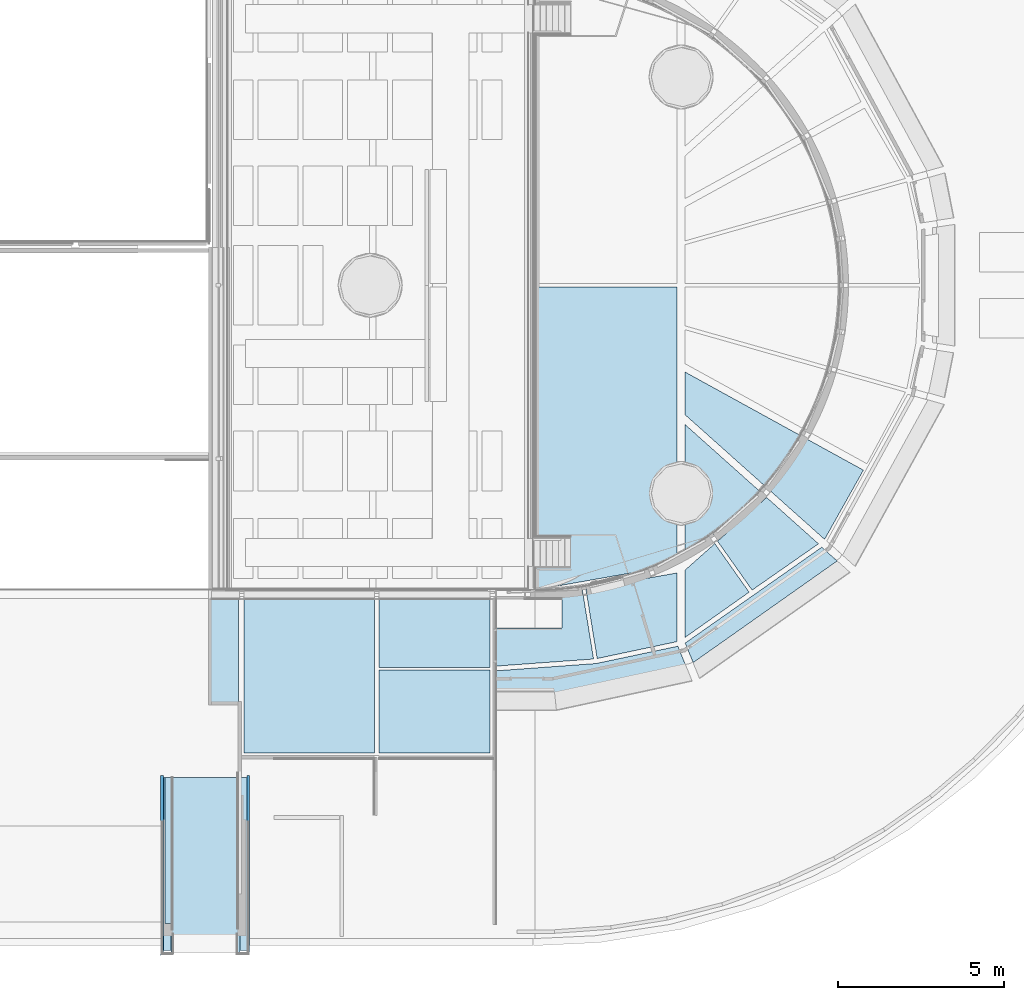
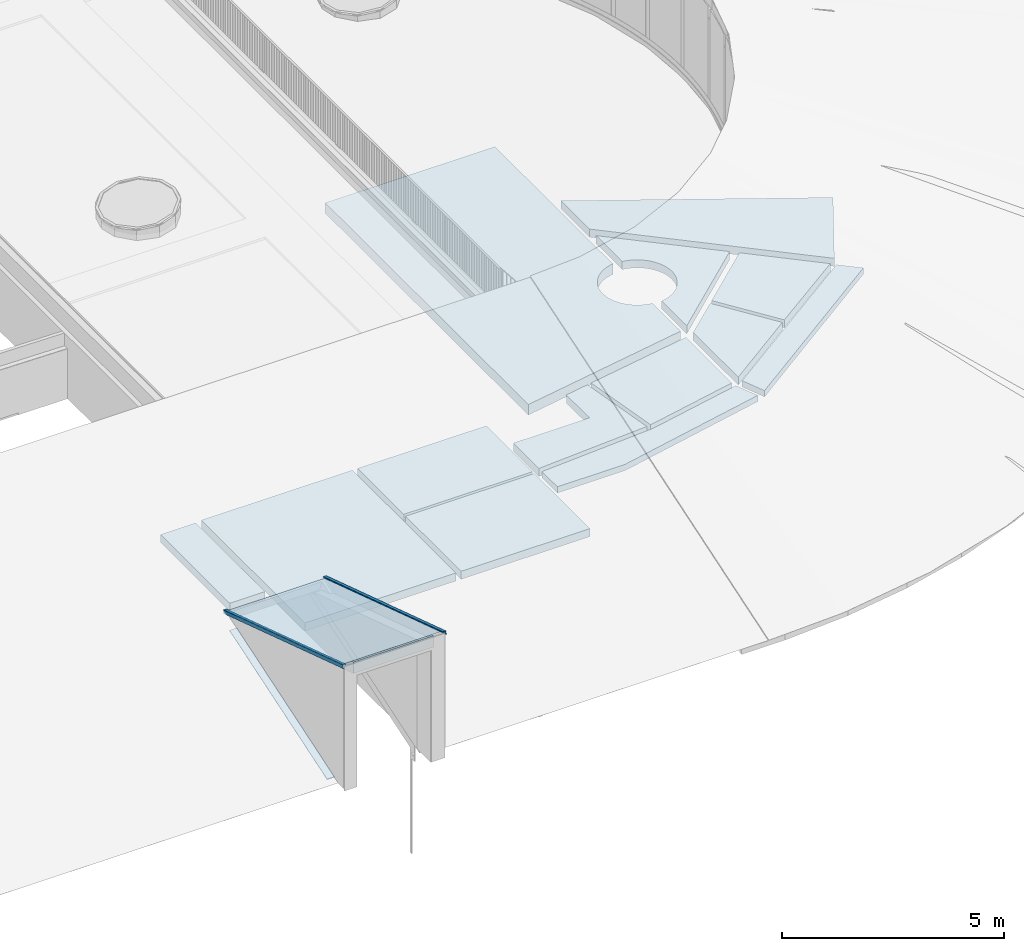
# One storey, part 13 of 66: 18 slabs, 5 elements without a shape of their own.
"""IFC2X3 building model written with IfcOpenShell, lengths in millimetres."""

from ifc_helpers import new_model, entity, si_unit, converted_unit, derived_unit, direction, frame, frame_2d, origin, origin_2d_with_axis, place, context, subcontext, project, spatial, polyline, circle_curve, parameter, trimmed, segment, composite_curve, rectangle, outline, extrude, material, material_list, layer, layer_set, layer_usage, type_object, element, aggregate, save


model = new_model("IFC2X3")

# Units and contexts
model_context = context("Model", 3, precision=0.01, world=origin(), true_north=direction((6.12303176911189e-17, 1.0)))
body_context = subcontext(model_context, "Body", "Model", "MODEL_VIEW")
ifc_project = project(units=[si_unit("LENGTHUNIT", "METRE", prefix="MILLI"), si_unit("AREAUNIT", "SQUARE_METRE"), si_unit("VOLUMEUNIT", "CUBIC_METRE"), converted_unit("PLANEANGLEUNIT", "DEGREE", entity("IfcRatioMeasure", 0.0174532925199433), si_unit("PLANEANGLEUNIT", "RADIAN"), dimensions=[0, 0, 0, 0, 0, 0, 0]), si_unit("MASSUNIT", "GRAM", prefix="KILO"), derived_unit("MASSDENSITYUNIT", [(si_unit("MASSUNIT", "GRAM", prefix="KILO"), 1), (si_unit("LENGTHUNIT", "METRE"), -3)]), derived_unit("MOMENTOFINERTIAUNIT", [(si_unit("LENGTHUNIT", "METRE"), 4)]), si_unit("TIMEUNIT", "SECOND"), si_unit("FREQUENCYUNIT", "HERTZ"), si_unit("THERMODYNAMICTEMPERATUREUNIT", "DEGREE_CELSIUS"), derived_unit("THERMALTRANSMITTANCEUNIT", [(si_unit("MASSUNIT", "GRAM", prefix="KILO"), 1), (si_unit("THERMODYNAMICTEMPERATUREUNIT", "KELVIN"), -1), (si_unit("TIMEUNIT", "SECOND"), -3)]), derived_unit("VOLUMETRICFLOWRATEUNIT", [(si_unit("LENGTHUNIT", "METRE"), 3), (si_unit("TIMEUNIT", "SECOND"), -1)]), si_unit("ELECTRICCURRENTUNIT", "AMPERE"), si_unit("ELECTRICVOLTAGEUNIT", "VOLT"), si_unit("POWERUNIT", "WATT"), si_unit("FORCEUNIT", "NEWTON", prefix="KILO"), si_unit("ILLUMINANCEUNIT", "LUX"), si_unit("LUMINOUSFLUXUNIT", "LUMEN"), si_unit("LUMINOUSINTENSITYUNIT", "CANDELA"), derived_unit("USERDEFINED", [(si_unit("MASSUNIT", "GRAM", prefix="KILO"), -1), (si_unit("LENGTHUNIT", "METRE"), -2), (si_unit("TIMEUNIT", "SECOND"), 3), (si_unit("LUMINOUSFLUXUNIT", "LUMEN"), 1)]), derived_unit("LINEARVELOCITYUNIT", [(si_unit("LENGTHUNIT", "METRE"), 1), (si_unit("TIMEUNIT", "SECOND"), -1)]), si_unit("PRESSUREUNIT", "PASCAL"), derived_unit("USERDEFINED", [(si_unit("LENGTHUNIT", "METRE"), -2), (si_unit("MASSUNIT", "GRAM", prefix="KILO"), 1), (si_unit("TIMEUNIT", "SECOND"), -2)]), derived_unit("LINEARFORCEUNIT", [(si_unit("MASSUNIT", "GRAM", prefix="KILO"), 1), (si_unit("LENGTHUNIT", "METRE"), 1), (si_unit("TIMEUNIT", "SECOND"), -2), (si_unit("LENGTHUNIT", "METRE"), -1)]), derived_unit("PLANARFORCEUNIT", [(si_unit("MASSUNIT", "GRAM", prefix="KILO"), 1), (si_unit("LENGTHUNIT", "METRE"), 1), (si_unit("TIMEUNIT", "SECOND"), -2), (si_unit("LENGTHUNIT", "METRE"), -2)])], contexts=[model_context])

# Site, building, storey
site_placement = place(None, origin())
site = spatial("IfcSite", under=ifc_project, at=site_placement, Name="Default", CompositionType="ELEMENT")
building_placement = place(site_placement, origin())
building = spatial("IfcBuilding", under=site, at=building_placement, Name="-", CompositionType="ELEMENT")
storey_placement = place(building_placement, frame((0.0, 0.0, 3070.0)))
storey = spatial("IfcBuildingStorey", under=building, at=storey_placement, Name="01 eerste verdieping", CompositionType="ELEMENT", Elevation=3070.00000000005)

# Covering, slab
covering_1_placement = place(storey_placement, frame((39423.5063982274, -452.772407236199, 1723.63208688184)))
covering_1 = element("IfcCovering", 1, at=covering_1_placement, inside=storey, Name="Basic Roof:NLRS_47_Felsdak zink", ObjectType="Basic Roof:NLRS_47_Felsdak zink", PredefinedType="NOTDEFINED")
slab_type_1 = type_object("IfcSlabType", Name="Basic Roof:NLRS_47_Felsdak zink", PredefinedType="ROOF")
slab_1_placement = place(covering_1_placement, origin())
slab_1 = element("IfcSlab", 2, at=slab_1_placement, type_object=slab_type_1, Name="Basic Roof:NLRS_47_Felsdak zink", ObjectType="Basic Roof:NLRS_47_Felsdak zink", PredefinedType="NOTDEFINED", context=body_context, shape_type="SweptSolid", body=[
    extrude(rectangle(XDim=2547.55903756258, YDim=5497.67613719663, at=frame_2d((4.32009983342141e-12, -6.82121026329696e-13), x_axis=(-1.0, 0.0))), frame((1273.77951878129, 2614.30035738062, 849.437677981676), z_axis=(0.0, 0.309016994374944, 0.951056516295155), x_axis=(1.0, 0.0, 0.0)), (0.0, -0.309016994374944, 0.951056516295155), 1.05146222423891),
])
aggregate(covering_1, [slab_1])

# Slabs
ifc_material_1 = material(Name="NLRS_i2_hout naaldhout vuren_gen")
ifc_layer_1 = layer(ifc_material_1, 221.0)
ifc_layer_set_1 = layer_set([ifc_layer_1], Name="Floor:NLRS_23_FL_Houten balk laag 221mm")
ifc_layer_usage_1 = layer_usage(ifc_layer_set_1, "AXIS3", "POSITIVE", 0.0)
slab_type_2 = type_object("IfcSlabType", Name="Floor:NLRS_23_FL_Houten balk laag 221mm", PredefinedType="FLOOR", material=ifc_layer_set_1)
slab_2_placement = place(storey_placement, origin())
element("IfcSlab", 3, at=slab_2_placement, inside=storey, type_object=slab_type_2, material=ifc_layer_usage_1, Name="Floor:NLRS_23_FL_Houten balk laag 221mm", ObjectType="Floor:NLRS_23_FL_Houten balk laag 221mm", PredefinedType="FLOOR", context=body_context, shape_type="SweptSolid", body=[
    extrude(outline(polyline([(1033.52836097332, -2395.6060394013), (2323.35033169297, -2395.6060394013), (-633.768233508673, 2981.4547027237), (-2723.11045915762, 1809.75737607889), (1033.52836097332, -2395.6060394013)])), frame((57572.7340260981, 14674.7118039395, 82.0), z_axis=(0.0, 0.0, -1.0), x_axis=(0.0, 1.0, 0.0)), (0.0, 0.0, 1.0), 221.0),
])
ifc_layer_usage_2 = layer_usage(ifc_layer_set_1, "AXIS3", "POSITIVE", 0.0)
slab_type_3 = type_object("IfcSlabType", Name="Floor:NLRS_23_FL_Houten balk laag 221mm", PredefinedType="FLOOR", material=ifc_layer_set_1)
slab_3_placement = place(storey_placement, origin())
element("IfcSlab", 4, at=slab_3_placement, inside=storey, type_object=slab_type_3, material=ifc_layer_usage_2, Name="Floor:NLRS_23_FL_Houten balk laag 221mm", ObjectType="Floor:NLRS_23_FL_Houten balk laag 221mm", PredefinedType="FLOOR", context=body_context, shape_type="SweptSolid", body=[
    extrude(outline(composite_curve([segment(polyline([(-2036.55619439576, 460.021450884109), (6.96434563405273, -1835.99081813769)]), True, "CONTINUOUS"), segment(polyline([(6.96434563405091, -1835.99081813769), (2056.156360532, 457.973958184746)]), True, "CONTINUOUS"), segment(polyline([(2056.156360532, 457.973958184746), (878.532039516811, 457.973958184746)]), True, "CONTINUOUS"), segment(trimmed(circle_curve(frame_2d((-13.1432360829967, 580.101771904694), x_axis=(-0.991059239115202, -0.13342257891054)), 900.000000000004), [parameter(0.0)], [parameter(164.533625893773)], True, "PARAMETER"), False, "CONTINUOUS"), segment(polyline([(-905.096551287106, 460.021450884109), (-2036.55619439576, 460.021450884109)]), True, "CONTINUOUS")], self_intersect=False)), frame((55635.1019448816, 13357.0363232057, 82.0), z_axis=(0.0, 0.0, 1.0), x_axis=(0.0, 1.0, 0.0)), (0.0, 0.0, -1.0), 221.0),
])
ifc_layer_usage_3 = layer_usage(ifc_layer_set_1, "AXIS3", "POSITIVE", 0.0)
slab_type_4 = type_object("IfcSlabType", Name="Floor:NLRS_23_FL_Houten balk laag 221mm", PredefinedType="FLOOR", material=ifc_layer_set_1)
slab_4_placement = place(storey_placement, origin())
element("IfcSlab", 5, at=slab_4_placement, inside=storey, type_object=slab_type_4, material=ifc_layer_usage_3, Name="Floor:NLRS_23_FL_Houten balk laag 221mm", ObjectType="Floor:NLRS_23_FL_Houten balk laag 221mm", PredefinedType="FLOOR", context=body_context, shape_type="SweptSolid", body=[
    extrude(outline(polyline([(-1557.26043607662, -709.47582815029), (472.612284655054, -709.47582815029), (1275.27387329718, 192.360399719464), (-190.625721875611, 1226.59125658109), (-1557.26043607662, -709.47582815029)])), frame((55879.767448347, 10549.0886197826, 82.0), z_axis=(0.0, 0.0, -1.0), x_axis=(0.0, 1.0, 0.0)), (0.0, 0.0, 1.0), 221.0),
])
ifc_layer_usage_4 = layer_usage(ifc_layer_set_1, "AXIS3", "POSITIVE", 0.0)
slab_type_5 = type_object("IfcSlabType", Name="Floor:NLRS_23_FL_Houten balk laag 221mm", PredefinedType="FLOOR", material=ifc_layer_set_1)
slab_5_placement = place(storey_placement, origin())
element("IfcSlab", 6, at=slab_5_placement, inside=storey, type_object=slab_type_5, material=ifc_layer_usage_4, Name="Floor:NLRS_23_FL_Houten balk laag 221mm", ObjectType="Floor:NLRS_23_FL_Houten balk laag 221mm", PredefinedType="FLOOR", context=body_context, shape_type="SweptSolid", body=[
    extrude(outline(polyline([(-1285.20975006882, -1288.79931952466), (787.280561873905, -1288.79931952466), (1296.60965066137, 1118.27309822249), (-798.680462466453, 1459.32554082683), (-1285.20975006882, -1288.79931952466)])), frame((53641.492300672, 9654.35121673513, 82.0), z_axis=(0.0, 0.0, -1.0), x_axis=(0.0, -1.0, 0.0)), (0.0, 0.0, 1.0), 221.0),
])
ifc_layer_usage_5 = layer_usage(ifc_layer_set_1, "AXIS3", "POSITIVE", 0.0)
slab_type_6 = type_object("IfcSlabType", Name="Floor:NLRS_23_FL_Houten balk laag 221mm", PredefinedType="FLOOR", material=ifc_layer_set_1)
slab_6_placement = place(storey_placement, origin())
element("IfcSlab", 7, at=slab_6_placement, inside=storey, type_object=slab_type_6, material=ifc_layer_usage_5, Name="Floor:NLRS_23_FL_Houten balk laag 221mm", ObjectType="Floor:NLRS_23_FL_Houten balk laag 221mm", PredefinedType="FLOOR", context=body_context, shape_type="SweptSolid", body=[
    extrude(outline(polyline([(-1170.85362968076, -1581.85526183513), (-15.5497637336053, -1581.85526183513), (-15.549763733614, 400.64473816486), (1025.73456094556, 400.64473816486), (1133.79277261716, 1011.0035910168), (-957.574176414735, 1351.41745632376), (-1170.85362968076, -1581.85526183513)])), frame((51063.47565197, 9300.17385913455, 82.0), z_axis=(0.0, 0.0, -1.0), x_axis=(0.0, 1.0, 0.0)), (0.0, 0.0, 1.0), 221.0),
])
ifc_material_2 = material(Name="NLRS_i4_hout_multiplex")
ifc_layer_2 = layer(ifc_material_2, 18.0)
ifc_layer_3 = layer(ifc_material_1, 271.0)
ifc_layer_set_2 = layer_set([ifc_layer_2, ifc_layer_3], Name="Floor:NLRS_23_FL_Houten balk laag 271mm met multiplex")
ifc_layer_usage_6 = layer_usage(ifc_layer_set_2, "AXIS3", "POSITIVE", 0.0)
slab_type_7 = type_object("IfcSlabType", Name="Floor:NLRS_23_FL_Houten balk laag 271mm met multiplex", PredefinedType="FLOOR", material=ifc_layer_set_2)
slab_7_placement = place(storey_placement, origin())
element("IfcSlab", 8, at=slab_7_placement, inside=storey, type_object=slab_type_7, material=ifc_layer_usage_6, Name="Floor:NLRS_23_FL_Houten balk laag 271mm met multiplex", ObjectType="Floor:NLRS_23_FL_Houten balk laag 271mm met multiplex", PredefinedType="FLOOR", context=body_context, shape_type="SweptSolid", body=[
    extrude(outline(composite_curve([segment(polyline([(-4164.30673348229, -2945.78181233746), (4994.33789830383, -2945.78181233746)]), True, "CONTINUOUS"), segment(polyline([(4994.33789830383, -2945.78181233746), (4994.33789830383, 1472.89090616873)]), True, "CONTINUOUS"), segment(polyline([(4994.33789830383, 1472.89090616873), (-328.819873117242, 1472.89090616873)]), True, "CONTINUOUS"), segment(trimmed(circle_curve(frame_2d((-1221.17308870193, 1589.96241695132), x_axis=(0.991503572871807, -0.130079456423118)), 900.000000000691), [parameter(194.948367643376)], [parameter(0.0)], True, "PARAMETER"), False, "CONTINUOUS"), segment(polyline([(-2113.5263042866, 1472.89090616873), (-3382.02288572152, 1472.89090616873)]), True, "CONTINUOUS"), segment(polyline([(-3382.02288572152, 1472.89090616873), (-4164.30673348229, -2945.78181233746)]), True, "CONTINUOUS")], self_intersect=False)), frame((53464.237080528, 14566.7218306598, 100.0), z_axis=(0.0, 0.0, -1.0), x_axis=(0.0, 1.0, 0.0)), (0.0, 0.0, 1.0), 289.0),
])
ifc_layer_usage_7 = layer_usage(ifc_layer_set_1, "AXIS3", "POSITIVE", 0.0)
slab_type_8 = type_object("IfcSlabType", Name="Floor:NLRS_23_FL_Houten balk laag 221mm", PredefinedType="FLOOR", material=ifc_layer_set_1)
slab_8_placement = place(storey_placement, origin())
element("IfcSlab", 9, at=slab_8_placement, inside=storey, type_object=slab_type_8, material=ifc_layer_usage_7, Name="Floor:NLRS_23_FL_Houten balk laag 221mm", ObjectType="Floor:NLRS_23_FL_Houten balk laag 221mm", PredefinedType="FLOOR", context=body_context, shape_type="SweptSolid", body=[
    extrude(rectangle(XDim=2503.92826883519, YDim=3355.14498639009, at=frame_2d((4.54747350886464e-13, 0.0), x_axis=(1.0, 0.0))), frame((47618.0478969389, 6758.533140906, 82.0), z_axis=(0.0, 0.0, -1.0), x_axis=(0.0, 1.0, 0.0)), (0.0, 0.0, 1.0), 221.0),
])
ifc_layer_usage_8 = layer_usage(ifc_layer_set_1, "AXIS3", "POSITIVE", 0.0)
slab_type_9 = type_object("IfcSlabType", Name="Floor:NLRS_23_FL_Houten balk laag 221mm", PredefinedType="FLOOR", material=ifc_layer_set_1)
slab_9_placement = place(storey_placement, origin())
element("IfcSlab", 10, at=slab_9_placement, inside=storey, type_object=slab_type_9, material=ifc_layer_usage_8, Name="Floor:NLRS_23_FL_Houten balk laag 221mm", ObjectType="Floor:NLRS_23_FL_Houten balk laag 221mm", PredefinedType="FLOOR", context=body_context, shape_type="SweptSolid", body=[
    extrude(rectangle(XDim=2086.62682007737, YDim=3355.14498639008, at=frame_2d((4.54747350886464e-13, 4.32009983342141e-12), x_axis=(1.0, 0.0))), frame((47618.0478969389, 9133.81068536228, 82.0), z_axis=(0.0, 0.0, -1.0), x_axis=(0.0, 1.0, 0.0)), (0.0, 0.0, 1.0), 221.0),
])
ifc_layer_usage_9 = layer_usage(ifc_layer_set_1, "AXIS3", "POSITIVE", 0.0)
slab_type_10 = type_object("IfcSlabType", Name="Floor:NLRS_23_FL_Houten balk laag 221mm", PredefinedType="FLOOR", material=ifc_layer_set_1)
slab_10_placement = place(storey_placement, origin())
element("IfcSlab", 11, at=slab_10_placement, inside=storey, type_object=slab_type_10, material=ifc_layer_usage_9, Name="Floor:NLRS_23_FL_Houten balk laag 221mm", ObjectType="Floor:NLRS_23_FL_Houten balk laag 221mm", PredefinedType="FLOOR", context=body_context, shape_type="SweptSolid", body=[
    extrude(rectangle(XDim=4670.55508891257, YDim=3933.68948673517, at=origin_2d_with_axis()), frame((43840.6306603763, 7841.8465509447, 82.0), z_axis=(0.0, 0.0, -1.0), x_axis=(0.0, 1.0, 0.0)), (0.0, 0.0, 1.0), 221.0),
])
ifc_layer_usage_10 = layer_usage(ifc_layer_set_1, "AXIS3", "POSITIVE", 0.0)
slab_type_11 = type_object("IfcSlabType", Name="Floor:NLRS_23_FL_Houten balk laag 221mm", PredefinedType="FLOOR", material=ifc_layer_set_1)
slab_11_placement = place(storey_placement, origin())
element("IfcSlab", 12, at=slab_11_placement, inside=storey, type_object=slab_type_11, material=ifc_layer_usage_10, Name="Floor:NLRS_23_FL_Houten balk laag 221mm", ObjectType="Floor:NLRS_23_FL_Houten balk laag 221mm", PredefinedType="FLOOR", context=body_context, shape_type="SweptSolid", body=[
    extrude(rectangle(XDim=3123.13777924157, YDim=912.499999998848, at=origin_2d_with_axis()), frame((41251.816810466, 8585.55520578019, 82.0), z_axis=(0.0, 0.0, -1.0), x_axis=(0.0, 1.0, 0.0)), (0.0, 0.0, 1.0), 221.0),
])

# Roof, slab
roof_1_placement = place(storey_placement, frame((39663.0668104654, -516.516507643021, 1398.86152453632)))
roof_1 = element("IfcRoof", 13, at=roof_1_placement, inside=storey, Name="Basic Roof:27_Dakelement Rc 6,0m²K/W, aftimmerpakket", ObjectType="Basic Roof:27_Dakelement Rc 6,0m²K/W, aftimmerpakket", ShapeType="NOTDEFINED")
slab_type_12 = type_object("IfcSlabType", Name="Basic Roof:27_Dakelement Rc 6,0m²K/W, aftimmerpakket", PredefinedType="ROOF")
slab_12_placement = place(roof_1_placement, origin())
slab_12 = element("IfcSlab", 14, at=slab_12_placement, type_object=slab_type_12, Name="Basic Roof:27_Dakelement Rc 6,0m²K/W, aftimmerpakket", ObjectType="Basic Roof:27_Dakelement Rc 6,0m²K/W, aftimmerpakket", PredefinedType="NOTDEFINED", context=body_context, shape_type="SweptSolid", body=[
    extrude(rectangle(XDim=2089.71910654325, YDim=5564.68502643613, at=frame_2d((-4.32009983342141e-12, -2.27373675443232e-13), x_axis=(1.0, 0.0))), frame((1044.85955327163, 2646.16497776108, 859.791120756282), z_axis=(0.0, 0.309016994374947, 0.951056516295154), x_axis=(1.0, 0.0, 0.0)), (0.0, -0.309016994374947, 0.951056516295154), 314.387205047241),
])
aggregate(roof_1, [slab_12])

ifc_material_3 = material(Name="AL_Aluminium")
ifc_material_4 = material(Name="AL_31_Naaldhout (vuren)")
ifc_material_5 = material(Name="h7_zink zwart")
ifc_material_list_1 = material_list([ifc_material_3, ifc_material_4, ifc_material_5])
roof_2_placement = place(storey_placement, origin())
roof_2 = element("IfcRoof", 15, at=roof_2_placement, inside=storey, material=ifc_material_list_1, Name="Dakrand zijkant dak6:Dakrand zijkant dak", ObjectType="Dakrand zijkant dak6:Dakrand zijkant dak", ShapeType="NOTDEFINED")
ifc_material_list_2 = material_list([ifc_material_3, ifc_material_4, ifc_material_5])
slab_type_13 = type_object("IfcSlabType", Name="Dakrand zijkant dak6:Dakrand zijkant dak", PredefinedType="ROOF")
slab_13_placement = place(storey_placement, origin())
slab_13 = element("IfcSlab", 16, at=slab_13_placement, type_object=slab_type_13, material=ifc_material_list_2, Name="Dakrand zijkant dak6:Dakrand zijkant dak:1", ObjectType="Dakrand zijkant dak6:Dakrand zijkant dak", PredefinedType="ROOF", context=body_context, shape_type="SweptSolid", body=[
    extrude(outline(composite_curve([segment(polyline([(36.5513412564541, -17.7650850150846), (-36.5513412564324, -17.7650850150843)]), True, "CONTINUOUS"), segment(trimmed(circle_curve(frame_2d((-36.5513412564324, -15.7650850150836), x_axis=(-1.0, 0.0)), 1.99999999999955), [parameter(359.999999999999)], [parameter(90.0000000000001)], True, "PARAMETER"), False, "CONTINUOUS"), segment(polyline([(-38.5513412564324, -15.7650850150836), (-38.5513412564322, 68.343468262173)]), True, "CONTINUOUS"), segment(polyline([(-38.5513412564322, 68.343468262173), (-39.5513412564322, 68.343468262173)]), True, "CONTINUOUS"), segment(polyline([(-39.5513412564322, 68.343468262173), (-39.5513412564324, -15.7650850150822)]), True, "CONTINUOUS"), segment(trimmed(circle_curve(frame_2d((-36.5513412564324, -15.7650850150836), x_axis=(-1.0, 0.0)), 2.99999999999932), [parameter(359.999999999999)], [parameter(90.0000000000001)], True, "PARAMETER"), True, "CONTINUOUS"), segment(polyline([(-36.5513412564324, -18.7650850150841), (36.5513412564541, -18.7650850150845)]), True, "CONTINUOUS"), segment(trimmed(circle_curve(frame_2d((36.5513412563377, -15.765085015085), x_axis=(1.0, 0.0)), 2.99999999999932), [parameter(270.000000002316)], [parameter(6.61555373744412e-13)], True, "PARAMETER"), True, "CONTINUOUS"), segment(polyline([(39.5513412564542, -15.765085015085), (39.5513412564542, -0.283128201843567)]), True, "CONTINUOUS"), segment(polyline([(39.5513412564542, -0.283128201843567), (38.5513412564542, -0.283128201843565)]), True, "CONTINUOUS"), segment(polyline([(38.5513412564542, -0.283128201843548), (38.5513412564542, -15.7650850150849)]), True, "CONTINUOUS"), segment(trimmed(circle_curve(frame_2d((36.5513412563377, -15.765085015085), x_axis=(1.0, 0.0)), 1.99999999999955), [parameter(270.000000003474)], [parameter(1.37399962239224e-12)], True, "PARAMETER"), False, "CONTINUOUS")], self_intersect=False)), frame((41999.4852164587, -291.306566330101, 3381.85709956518), z_axis=(0.0, -0.951056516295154, 0.309016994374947), x_axis=(-1.0, 0.0, 0.0)), (0.0, 0.0, -1.0), 5380.0),
    extrude(rectangle(XDim=37.9999999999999, YDim=5410.0, at=frame_2d((0.0, 8.79296635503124e-13), x_axis=(0.0, 1.0))), frame((41971.06543579, 2250.70023499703, 2553.55909317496), z_axis=(1.0, 0.0, 0.0), x_axis=(0.0, -0.951056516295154, 0.309016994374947)), (0.0, 0.0, 1.0), 58.0000000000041),
    extrude(outline(composite_curve([segment(polyline([(-63.3639587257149, -41.6884154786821), (-55.4151697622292, -28.967694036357)]), True, "CONTINUOUS"), segment(polyline([(-55.4151697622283, -28.967694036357), (-56.2632178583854, -28.4377747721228)]), True, "CONTINUOUS"), segment(polyline([(-56.2632178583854, -28.4377747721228), (-65.1680064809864, -42.6884154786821)]), True, "CONTINUOUS"), segment(polyline([(-65.168006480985, -42.6884154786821), (25.521717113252, -42.6884154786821)]), True, "CONTINUOUS"), segment(trimmed(circle_curve(frame_2d((25.5217171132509, -39.6884154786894), x_axis=(0.0, -1.0)), 2.99999999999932), [parameter(2.44266599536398e-12)], [parameter(90.0000000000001)], True, "PARAMETER"), True, "CONTINUOUS"), segment(polyline([(28.521717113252, -39.6884154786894), (28.5217171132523, 37.4142670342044)]), True, "CONTINUOUS"), segment(trimmed(circle_curve(frame_2d((25.5217171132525, 37.4142670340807), x_axis=(0.0, 1.0)), 2.99999999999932), [parameter(270.000000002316)], [parameter(3.05333249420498e-12)], True, "PARAMETER"), True, "CONTINUOUS"), segment(polyline([(25.5217171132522, 40.4142670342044), (3.10750355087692, 40.4142670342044)]), True, "CONTINUOUS"), segment(polyline([(3.10750355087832, 40.4142670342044), (8.35014423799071, 35.1716263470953)]), True, "CONTINUOUS"), segment(polyline([(8.3501442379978, 35.1716263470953), (9.05725101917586, 35.8787331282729)]), True, "CONTINUOUS"), segment(polyline([(9.0572510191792, 35.8787331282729), (5.52171711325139, 39.4142670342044)]), True, "CONTINUOUS"), segment(polyline([(5.52171711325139, 39.4142670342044), (25.5217171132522, 39.4142670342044)]), True, "CONTINUOUS"), segment(trimmed(circle_curve(frame_2d((25.5217171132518, 37.4142670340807), x_axis=(0.0, 1.0)), 1.99999999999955), [parameter(270.000000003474)], [parameter(4.6817764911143e-12)], True, "PARAMETER"), False, "CONTINUOUS"), segment(polyline([(27.5217171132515, 37.4142670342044), (27.5217171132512, -39.6884154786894)]), True, "CONTINUOUS"), segment(trimmed(circle_curve(frame_2d((25.5217171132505, -39.6884154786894), x_axis=(0.0, -1.0)), 1.99999999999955), [parameter(4.27466549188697e-12)], [parameter(90.0000000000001)], True, "PARAMETER"), False, "CONTINUOUS"), segment(polyline([(25.521717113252, -41.6884154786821), (-63.3639587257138, -41.6884154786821)]), True, "CONTINUOUS")], self_intersect=False)), frame((41998.3481422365, -572.81717009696, 3465.16963378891), z_axis=(0.0, -0.951056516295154, 0.309016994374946), x_axis=(0.0, 0.309016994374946, 0.951056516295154)), (0.0, 0.0, -1.0), 5675.0),
])
aggregate(roof_2, [slab_13])

ifc_material_list_3 = material_list([ifc_material_3, ifc_material_4, ifc_material_5])
roof_3_placement = place(storey_placement, origin())
roof_3 = element("IfcRoof", 17, at=roof_3_placement, inside=storey, material=ifc_material_list_3, Name="Dakrand zijkant dak7:Dakrand zijkant dak", ObjectType="Dakrand zijkant dak7:Dakrand zijkant dak", ShapeType="NOTDEFINED")
ifc_material_list_4 = material_list([ifc_material_3, ifc_material_4, ifc_material_5])
slab_type_14 = type_object("IfcSlabType", Name="Dakrand zijkant dak7:Dakrand zijkant dak", PredefinedType="ROOF")
slab_14_placement = place(storey_placement, origin())
slab_14 = element("IfcSlab", 18, at=slab_14_placement, type_object=slab_type_14, material=ifc_material_list_4, Name="Dakrand zijkant dak7:Dakrand zijkant dak:1", ObjectType="Dakrand zijkant dak7:Dakrand zijkant dak", PredefinedType="ROOF", context=body_context, shape_type="SweptSolid", body=[
    extrude(outline(composite_curve([segment(trimmed(circle_curve(frame_2d((-36.5513412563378, -15.7650850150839), x_axis=(-1.0, 0.0)), 1.99999999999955), [parameter(1.01777749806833e-13)], [parameter(89.9999999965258)], True, "PARAMETER"), False, "CONTINUOUS"), segment(polyline([(-38.5513412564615, -15.7650850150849), (-38.5513412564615, -0.283128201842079)]), True, "CONTINUOUS"), segment(polyline([(-38.5513412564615, -0.283128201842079), (-39.5513412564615, -0.283128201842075)]), True, "CONTINUOUS"), segment(polyline([(-39.5513412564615, -0.283128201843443), (-39.5513412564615, -15.7650850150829)]), True, "CONTINUOUS"), segment(trimmed(circle_curve(frame_2d((-36.5513412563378, -15.7650850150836), x_axis=(-1.0, 0.0)), 2.99999999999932), [parameter(1.01777749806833e-13)], [parameter(89.9999999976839)], True, "PARAMETER"), True, "CONTINUOUS"), segment(polyline([(-36.5513412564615, -18.765085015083), (36.551341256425, -18.765085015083)]), True, "CONTINUOUS"), segment(trimmed(circle_curve(frame_2d((36.551341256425, -15.765085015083), x_axis=(1.0, 0.0)), 2.99999999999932), [parameter(270.0)], [parameter(360.0)], True, "PARAMETER"), True, "CONTINUOUS"), segment(polyline([(39.551341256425, -15.765085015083), (39.5513412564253, 68.3434682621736)]), True, "CONTINUOUS"), segment(polyline([(39.5513412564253, 68.3434682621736), (38.5513412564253, 68.3434682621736)]), True, "CONTINUOUS"), segment(polyline([(38.5513412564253, 68.3434682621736), (38.551341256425, -15.765085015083)]), True, "CONTINUOUS"), segment(trimmed(circle_curve(frame_2d((36.551341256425, -15.765085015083), x_axis=(1.0, 0.0)), 1.99999999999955), [parameter(270.0)], [parameter(359.999999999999)], True, "PARAMETER"), False, "CONTINUOUS"), segment(polyline([(36.551341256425, -17.7650850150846), (-36.5513412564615, -17.7650850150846)]), True, "CONTINUOUS")], self_intersect=False)), frame((39395.0866175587, -291.306566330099, 3381.85709956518), z_axis=(0.0, -0.951056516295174, 0.309016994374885), x_axis=(-1.0, 0.0, 0.0)), (0.0, 0.0, -1.0), 5330.0),
    extrude(rectangle(XDim=37.9999999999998, YDim=5405.0, at=frame_2d((0.0, 6.09290395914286e-13), x_axis=(0.0, 1.0))), frame((39365.5063982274, 2248.32259370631, 2554.3316356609), z_axis=(1.0, 0.0, 0.0), x_axis=(0.0, -0.951056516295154, 0.309016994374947)), (0.0, 0.0, 1.0), 58.0000000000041),
    extrude(outline(composite_curve([segment(polyline([(-68.9315637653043, 31.6441901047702), (-53.9315637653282, 31.6441901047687)]), True, "CONTINUOUS"), segment(polyline([(-53.9315637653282, 31.6441901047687), (-53.9315637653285, 32.6441901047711)]), True, "CONTINUOUS"), segment(polyline([(-53.9315637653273, 32.6441901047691), (-70.7356115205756, 32.64419010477)]), True, "CONTINUOUS"), segment(polyline([(-70.7356115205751, 32.6441901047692), (-22.6773799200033, -44.2650573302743)]), True, "CONTINUOUS"), segment(trimmed(circle_curve(frame_2d((-20.1332356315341, -42.6752995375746), x_axis=(-0.848048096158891, -0.529919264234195)), 2.99999999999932), [parameter(359.999999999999)], [parameter(90.0000000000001)], True, "PARAMETER"), True, "CONTINUOUS"), segment(polyline([(-18.5434778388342, -45.2194438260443), (46.8433052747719, -4.36124703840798)]), True, "CONTINUOUS"), segment(trimmed(circle_curve(frame_2d((45.2535474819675, -1.81710275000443), x_axis=(0.848048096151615, 0.529919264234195)), 2.99999999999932), [parameter(270.000000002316)], [parameter(2.69711036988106e-12)], True, "PARAMETER"), True, "CONTINUOUS"), segment(polyline([(47.7976917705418, -0.227344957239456), (35.9199682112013, 18.7809861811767)]), True, "CONTINUOUS"), segment(polyline([(35.9199682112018, 18.7809861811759), (34.2521330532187, 11.5567984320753)]), True, "CONTINUOUS"), segment(polyline([(34.2521330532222, 11.5567984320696), (35.226503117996, 11.3318473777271)]), True, "CONTINUOUS"), segment(polyline([(35.2265031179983, 11.3318473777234), (36.3512583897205, 16.2036977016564)]), True, "CONTINUOUS"), segment(polyline([(36.3512583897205, 16.2036977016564), (46.9496436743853, -0.757264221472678)]), True, "CONTINUOUS"), segment(trimmed(circle_curve(frame_2d((45.2535474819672, -1.81710275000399), x_axis=(0.848048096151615, 0.529919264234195)), 1.99999999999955), [parameter(270.000000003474)], [parameter(4.07110999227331e-12)], True, "PARAMETER"), False, "CONTINUOUS"), segment(polyline([(46.3133860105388, -3.51319894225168), (-19.0733971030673, -44.371395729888)]), True, "CONTINUOUS"), segment(trimmed(circle_curve(frame_2d((-20.1332356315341, -42.6752995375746), x_axis=(-0.848048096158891, -0.529919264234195)), 1.99999999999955), [parameter(359.999999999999)], [parameter(90.0000000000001)], True, "PARAMETER"), False, "CONTINUOUS"), segment(polyline([(-21.829331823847, -43.735138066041), (-68.9315637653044, 31.6441901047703)]), True, "CONTINUOUS")], self_intersect=False)), frame((39396.2236917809, -574.156275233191, 3465.60473542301), z_axis=(0.0, 0.951056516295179, -0.309016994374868), x_axis=(0.848048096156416, 0.163754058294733, 0.503983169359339)), (0.0, 0.0, 1.0), 5670.0),
])
aggregate(roof_3, [slab_14])

# Slabs
ifc_layer_usage_11 = layer_usage(ifc_layer_set_1, "AXIS3", "POSITIVE", 0.0)
slab_type_15 = type_object("IfcSlabType", Name="Floor:NLRS_23_FL_Houten balk laag 221mm", PredefinedType="FLOOR", material=ifc_layer_set_1)
slab_15_placement = place(storey_placement, origin())
element("IfcSlab", 19, at=slab_15_placement, inside=storey, type_object=slab_type_15, material=ifc_layer_usage_11, Name="Floor:NLRS_23_FL_Houten balk laag 221mm", ObjectType="Floor:NLRS_23_FL_Houten balk laag 221mm", PredefinedType="FLOOR", context=body_context, shape_type="SweptSolid", body=[
    extrude(outline(polyline([(-851.94903792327, -1086.57759766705), (1245.32655211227, -1086.57759766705), (683.691045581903, 1289.58184921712), (-1077.0685597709, 883.57334611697), (-851.94903792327, -1086.57759766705)])), frame((57546.6696966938, 11838.4698648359, 82.0), z_axis=(0.0, 0.0, -1.0), x_axis=(0.745344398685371, -0.666679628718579, 0.0)), (0.0, 0.0, 1.0), 221.0),
])
ifc_layer_4 = layer(ifc_material_1, 171.0)
ifc_layer_set_3 = layer_set([ifc_layer_4], Name="Floor:NLRS_23_FL_Houten balk laag 171mm")
ifc_layer_usage_12 = layer_usage(ifc_layer_set_3, "AXIS3", "POSITIVE", 0.0)
slab_type_16 = type_object("IfcSlabType", Name="Floor:NLRS_23_FL_Houten balk laag 171mm", PredefinedType="FLOOR", material=ifc_layer_set_3)
slab_16_placement = place(storey_placement, origin())
element("IfcSlab", 20, at=slab_16_placement, inside=storey, type_object=slab_type_16, material=ifc_layer_usage_12, Name="Floor:NLRS_23_FL_Houten balk laag 171mm", ObjectType="Floor:NLRS_23_FL_Houten balk laag 171mm", PredefinedType="FLOOR", context=body_context, shape_type="SweptSolid", body=[
    extrude(outline(polyline([(-648.066328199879, -2659.18329054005), (43.6669781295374, -2659.18329054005), (262.44856604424, 349.761327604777), (784.311859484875, 2816.0699817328), (205.705252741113, 3052.04739101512), (-648.066328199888, -899.512119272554), (-648.066328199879, -2659.18329054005)])), frame((52140.803680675, 7945.28366293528, 82.0), z_axis=(0.0, 0.0, -1.0), x_axis=(0.0, 1.0, 0.0)), (0.0, 0.0, 1.0), 171.0),
])
ifc_layer_usage_13 = layer_usage(ifc_layer_set_3, "AXIS3", "POSITIVE", 0.0)
slab_type_17 = type_object("IfcSlabType", Name="Floor:NLRS_23_FL_Houten balk laag 171mm", PredefinedType="FLOOR", material=ifc_layer_set_3)
slab_17_placement = place(storey_placement, origin())
element("IfcSlab", 21, at=slab_17_placement, inside=storey, type_object=slab_type_17, material=ifc_layer_usage_13, Name="Floor:NLRS_23_FL_Houten balk laag 171mm", ObjectType="Floor:NLRS_23_FL_Houten balk laag 171mm", PredefinedType="FLOOR", context=body_context, shape_type="SweptSolid", body=[
    extrude(outline(polyline([(-2657.96333325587, -307.18047787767), (2659.71041654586, -307.18047787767), (2516.0417838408, 314.067934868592), (-2517.7888671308, 300.293020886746), (-2657.96333325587, -307.18047787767)])), frame((57413.8785431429, 10019.2894236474, 82.0), z_axis=(0.0, 0.0, -1.0), x_axis=(-0.81705764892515, -0.576555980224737, 0.0)), (0.0, 0.0, 1.0), 171.0),
])

# Covering, slab
covering_2_placement = place(storey_placement, frame((39486.2922973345, 370.121222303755, -283.787733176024)))
covering_2 = element("IfcCovering", 22, at=covering_2_placement, inside=storey, Name="Basic Roof:NLRS_47_multiplex betimmering", ObjectType="Basic Roof:NLRS_47_multiplex betimmering", PredefinedType="NOTDEFINED")
slab_type_18 = type_object("IfcSlabType", Name="Basic Roof:NLRS_47_multiplex betimmering", PredefinedType="ROOF")
slab_18_placement = place(covering_2_placement, origin())
slab_18 = element("IfcSlab", 23, at=slab_18_placement, type_object=slab_type_18, Name="Basic Roof:NLRS_47_multiplex betimmering", ObjectType="Basic Roof:NLRS_47_multiplex betimmering", PredefinedType="NOTDEFINED", context=body_context, shape_type="SweptSolid", body=[
    extrude(rectangle(XDim=198.493619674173, YDim=4632.21436784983, at=frame_2d((4.32720526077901e-12, -4.54747350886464e-13), x_axis=(-1.0, 0.0))), frame((99.2468098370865, 2202.74882970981, 715.716480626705), z_axis=(0.0, -0.309016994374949, 0.951056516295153), x_axis=(1.0, 0.0, 0.0)), (0.0, 0.309016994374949, 0.951056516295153), 15.7719333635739),
])
aggregate(covering_2, [slab_18])

save(model, "model.ifc")
